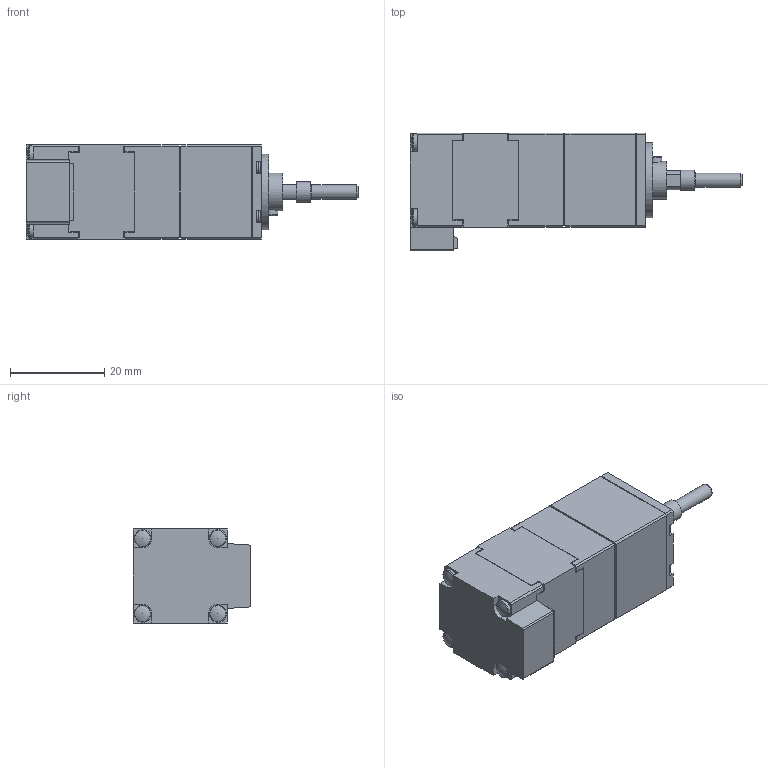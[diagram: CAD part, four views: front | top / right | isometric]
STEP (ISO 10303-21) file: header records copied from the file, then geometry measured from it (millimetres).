
FILE_DESCRIPTION( ( 'STEP AP203' ), '1' );
FILE_NAME( '//S38133/base/local/Torisetsu/WEB2CAD/WORK/DRL2/DRL20-02B1P-KB_0_.stp', ' ', ( ' ' ), ( ' ' ), 'PSStep 15.0.47', 'PARTsolutions', ' ' );
FILE_SCHEMA( ( 'CONFIG_CONTROL_DESIGN' ) );
Length unit declared in the file: millimetre
Products named in the file (3): DRL20-02B1P-KB(0); HI_DRL20P-02(DC)-Body; HI_DRL20B-02(P)-Rod
Assembly tree (2 placements, depth 2):
  DRL20-02B1P-KB(0)
    HI_DRL20P-02(DC)-Body
    HI_DRL20B-02(P)-Rod
Bounding box: 70.5 x 25 x 20 mm (x, y, z)
Volume: 20918.8 mm3; surface area: 6887.5 mm2
Topology: 2 solids, 2 shells, 254 faces, 662 edges, 431 vertices
Faces by surface type: plane 192, cylinder 37, torus 11, cone 10, bspline 4
Full cylindrical faces by diameter (mm): 1.567 x4, 2.3 x4, 2.5 x4, 3 x3, 3.6 x4, 4 x2, 4.3 x1, 8 x1, 12 x1, 16 x1
Entity records: 7652 total; most frequent: CARTESIAN_POINT 1493, ORIENTED_EDGE 1202, DIRECTION 1194, EDGE_CURVE 601, LINE 510, VECTOR 510, VERTEX_POINT 429, AXIS2_PLACEMENT_3D 342
